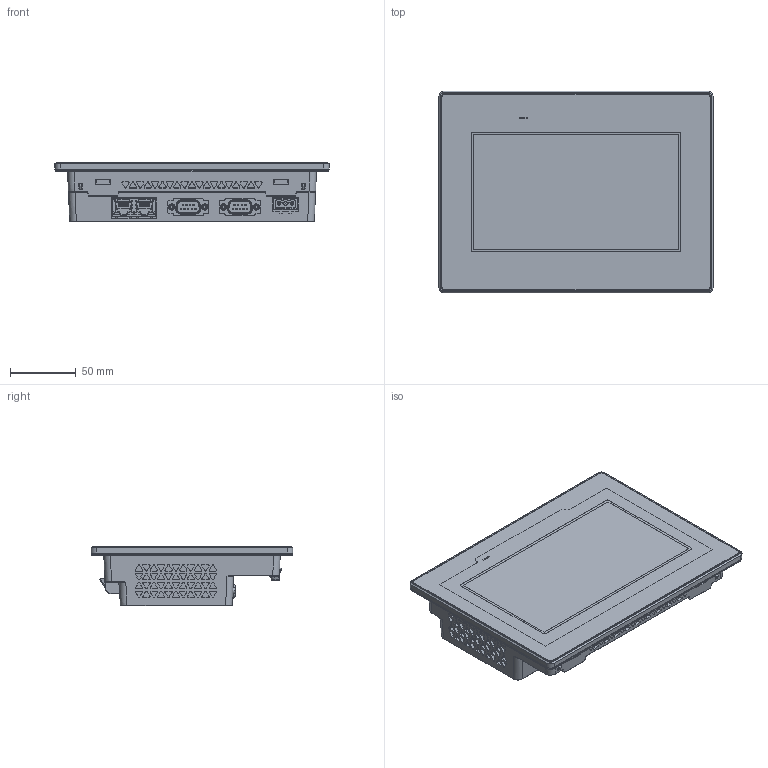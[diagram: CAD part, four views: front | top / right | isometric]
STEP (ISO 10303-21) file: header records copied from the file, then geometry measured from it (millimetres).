
FILE_DESCRIPTION((''),'2;1');
FILE_NAME('QGH7609901_ASM_ASM','2019-03-05T',('SESA409019'),('Schneider-Electric'),'PRO/ENGINEER BY PARAMETRIC TECHNOLOGY CORPORATION, 2015440','PRO/ENGINEER BY PARAMETRIC TECHNOLOGY CORPORATION, 2015440','');
FILE_SCHEMA(('CONFIG_CONTROL_DESIGN'));
Products named in the file (1): QGH7609901_ASM_ASM
Bounding box: 208 x 153 x 45.1 mm (x, y, z)
Volume: 939255.6 mm3; surface area: 214653.9 mm2
Topology: 1 solids, 38 shells, 6962 faces, 19054 edges, 12413 vertices
Faces by surface type: plane 3708, cylinder 1270, extrusion 953, bspline 525, cone 343, torus 141, sphere 22
Entity records: 250854 total; most frequent: CARTESIAN_POINT 80704, ORIENTED_EDGE 38018, DIRECTION 30206, EDGE_CURVE 19009, VECTOR 12914, VERTEX_POINT 12413, LINE 11961, AXIS2_PLACEMENT_3D 8646
